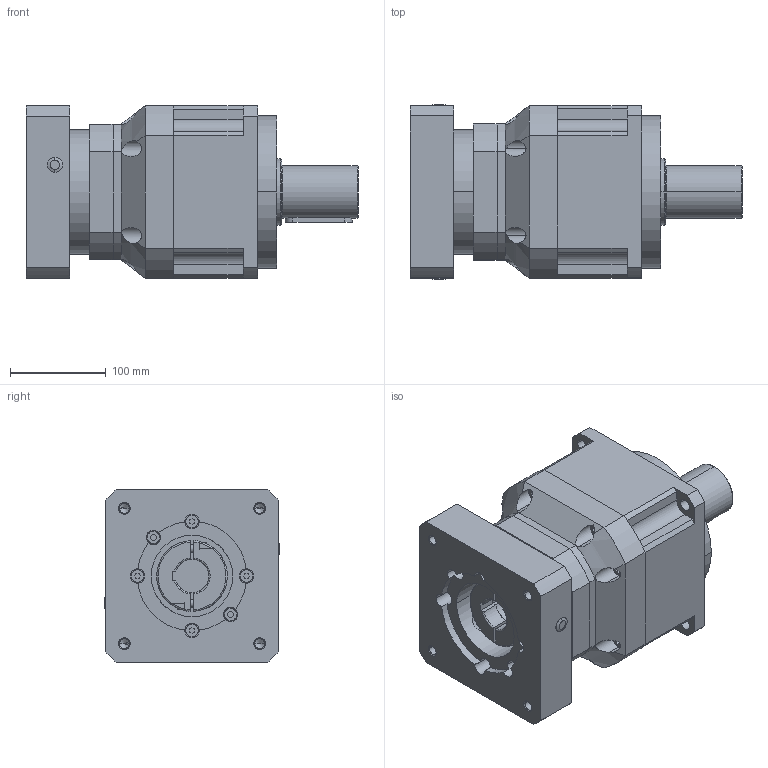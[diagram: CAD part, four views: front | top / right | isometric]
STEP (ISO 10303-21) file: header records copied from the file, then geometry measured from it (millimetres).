
FILE_DESCRIPTION (( 'STEP AP203' ), '1' );
FILE_NAME ('180-L2-35-114.3-200-M12(入力带键槽).STEP', '2020-06-09T00:07:06', ( 'ylmfeng' ), ( 'ylmfeng.com' ), 'SwSTEP 2.0', 'SolidWorks 2014', '' );
FILE_SCHEMA (( 'CONFIG_CONTROL_DESIGN' ));
Length unit declared in the file: millimetre
Products named in the file (1): 180-L2-35-114.3-200-M12(入力带键槽)
Bounding box: 347 x 183 x 180 mm (x, y, z)
Volume: 6740240.8 mm3; surface area: 515218.4 mm2
Topology: 35 solids, 35 shells, 872 faces, 2055 edges, 1296 vertices
Faces by surface type: plane 419, cylinder 272, cone 80, torus 73, bspline 28
Entity records: 26943 total; most frequent: CARTESIAN_POINT 6559, DIRECTION 4415, ORIENTED_EDGE 4058, EDGE_CURVE 2029, AXIS2_PLACEMENT_3D 1693, VERTEX_POINT 1296, LINE 1029, VECTOR 1029
